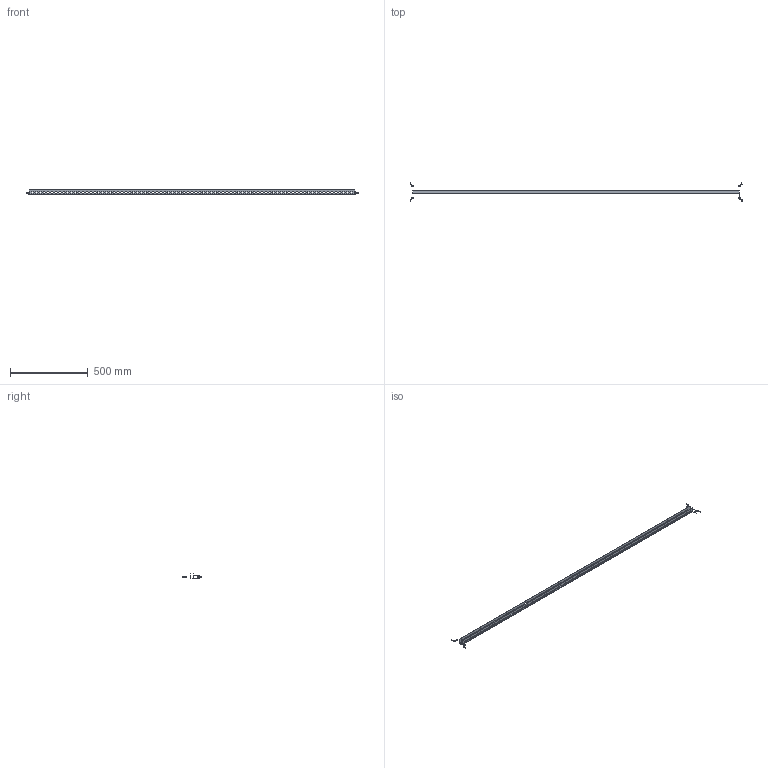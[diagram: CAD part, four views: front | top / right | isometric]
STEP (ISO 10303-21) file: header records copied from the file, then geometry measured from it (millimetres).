
FILE_DESCRIPTION(('CAx-IF Rec.Pracs.---Model Styling and Organization---1.2---2011-12-15','CAx-IF Rec.Pracs.---Geometric and Assembly Validation Properties---4.1---2014-06-16','CAx-IF Rec.Pracs.---PMI Polyline Presentation---2.0---2013-05-24'),'2;1');
FILE_NAME('R5PH22.stp','2021-05-06T05:52:14+03:00',(''),(''),'STEP Interface 4.4 by CT CoreTechnologie','3D_Evolution4.4 by CT CoreTechnologie','');
FILE_SCHEMA(('AUTOMOTIVE_DESIGN { 1 0 10303 214 1 1 1 1 }'));
Length unit declared in the file: millimetre
Products named in the file (4): R5PH22; AC00C485; M6x16-DIN 7985 ISR_thread; RB.0492.00.00.0_-02
Assembly tree (9 placements, depth 2):
  R5PH22
    AC00C485  x4
    M6x16-DIN 7985 ISR_thread  x4
    RB.0492.00.00.0_-02
Bounding box: 2135 x 128.25 x 31.5 mm (x, y, z)
Surface area: 354741.2 mm2 (no closed solid volume)
Topology: 0 solids, 21 shells, 1196 faces, 3406 edges, 2232 vertices
Faces by surface type: plane 756, cylinder 392, bspline 48
Entity records: 37896 total; most frequent: CARTESIAN_POINT 6819, ORIENTED_EDGE 6356, DIRECTION 6047, EDGE_CURVE 3178, VECTOR 2461, LINE 2461, VERTEX_POINT 2115, AXIS2_PLACEMENT_3D 1793
